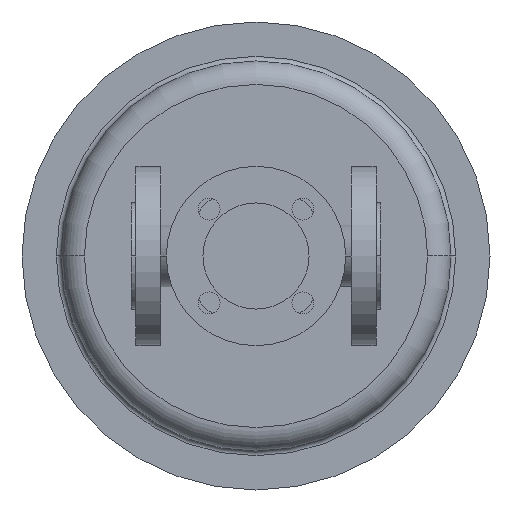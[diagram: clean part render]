
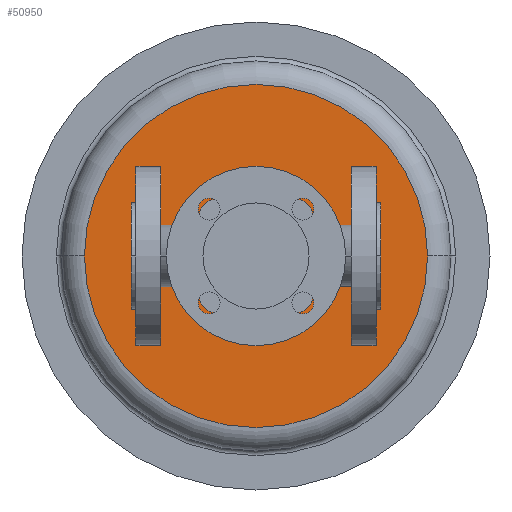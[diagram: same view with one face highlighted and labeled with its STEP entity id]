
A CAD part, front view. The second image highlights one B-rep face of the part: STEP entity #50950.
In plain terms, the highlighted planar face has unit normal (0, -1, 0).
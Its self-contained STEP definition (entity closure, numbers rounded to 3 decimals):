
#37500=CARTESIAN_POINT('',(190.,360.,0.));
#37510=VERTEX_POINT('',#37500);
#37540=CARTESIAN_POINT('',(80.,360.,0.));
#37550=DIRECTION('',(0.,1.,0.));
#37560=DIRECTION('',(1.,0.,0.));
#37570=AXIS2_PLACEMENT_3D('',#37540,#37550,#37560);
#37580=CIRCLE('',#37570,110.);
#37590=CARTESIAN_POINT('',(-30.,360.,0.));
#37600=VERTEX_POINT('',#37590);
#37610=EDGE_CURVE('',#37600,#37510,#37580,.T.);
#38270=CARTESIAN_POINT('',(115.,360.,0.));
#38280=VERTEX_POINT('',#38270);
#38440=CARTESIAN_POINT('',(145.,360.,0.));
#38450=VERTEX_POINT('',#38440);
#38480=CARTESIAN_POINT('',(130.,360.,0.));
#38490=DIRECTION('',(0.,1.,0.));
#38500=DIRECTION('',(1.,0.,0.));
#38510=AXIS2_PLACEMENT_3D('',#38480,#38490,#38500);
#38520=CIRCLE('',#38510,15.);
#38530=EDGE_CURVE('',#38450,#38280,#38520,.T.);
#38690=CARTESIAN_POINT('',(45.,360.,0.));
#38700=VERTEX_POINT('',#38690);
#38730=CARTESIAN_POINT('',(30.,360.,0.));
#38740=DIRECTION('',(0.,1.,0.));
#38750=DIRECTION('',(1.,0.,0.));
#38760=AXIS2_PLACEMENT_3D('',#38730,#38740,#38750);
#38770=CIRCLE('',#38760,15.);
#38780=CARTESIAN_POINT('',(15.,360.,0.));
#38790=VERTEX_POINT('',#38780);
#38800=EDGE_CURVE('',#38700,#38790,#38770,.T.);
#39090=CARTESIAN_POINT('',(98.45,360.,0.));
#39100=VERTEX_POINT('',#39090);
#39320=CARTESIAN_POINT('',(61.55,360.,0.));
#39330=VERTEX_POINT('',#39320);
#39360=CARTESIAN_POINT('',(80.,360.,0.));
#39370=DIRECTION('',(0.,1.,0.));
#39380=DIRECTION('',(1.,0.,0.));
#39390=AXIS2_PLACEMENT_3D('',#39360,#39370,#39380);
#39400=CIRCLE('',#39390,18.45);
#39410=EDGE_CURVE('',#39330,#39100,#39400,.T.);
#50700=CARTESIAN_POINT('',(135.,360.,0.));
#50710=DIRECTION('',(0.,-1.,0.));
#50720=DIRECTION('',(-1.,0.,0.));
#50730=AXIS2_PLACEMENT_3D('',#50700,#50710,#50720);
#50740=PLANE('',#50730);
#50750=EDGE_CURVE('',#39100,#39330,#39400,.T.);
#50760=ORIENTED_EDGE('',*,*,#50750,.T.);
#50770=ORIENTED_EDGE('',*,*,#39410,.T.);
#50780=EDGE_LOOP('',(#50770,#50760));
#50790=FACE_BOUND('',#50780,.T.);
#50800=EDGE_CURVE('',#38790,#38700,#38770,.T.);
#50810=ORIENTED_EDGE('',*,*,#50800,.T.);
#50820=ORIENTED_EDGE('',*,*,#38800,.T.);
#50830=EDGE_LOOP('',(#50820,#50810));
#50840=FACE_BOUND('',#50830,.T.);
#50850=EDGE_CURVE('',#38280,#38450,#38520,.T.);
#50860=ORIENTED_EDGE('',*,*,#50850,.T.);
#50870=ORIENTED_EDGE('',*,*,#38530,.T.);
#50880=EDGE_LOOP('',(#50870,#50860));
#50890=FACE_BOUND('',#50880,.T.);
#50900=EDGE_CURVE('',#37510,#37600,#37580,.T.);
#50910=ORIENTED_EDGE('',*,*,#50900,.F.);
#50920=ORIENTED_EDGE('',*,*,#37610,.F.);
#50930=EDGE_LOOP('',(#50920,#50910));
#50940=FACE_OUTER_BOUND('',#50930,.T.);
#50950=ADVANCED_FACE('',(#50790,#50840,#50890,#50940),#50740,.T.);
